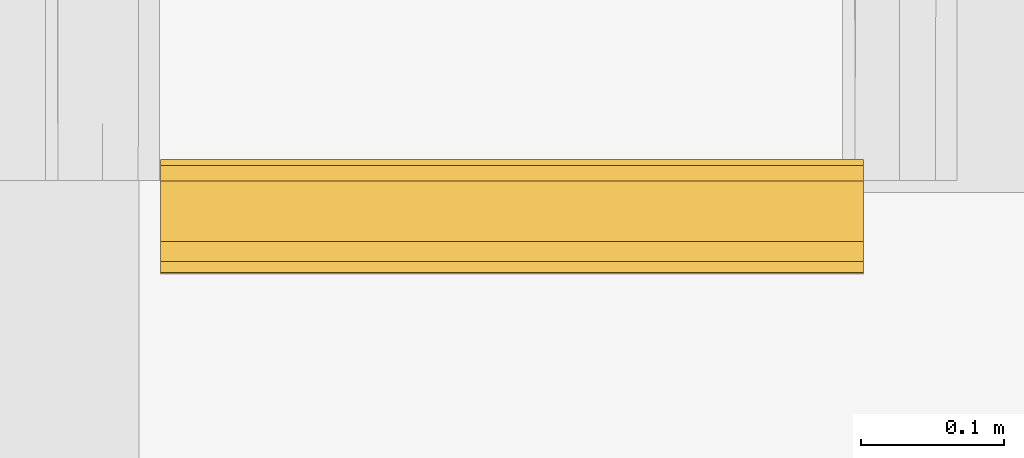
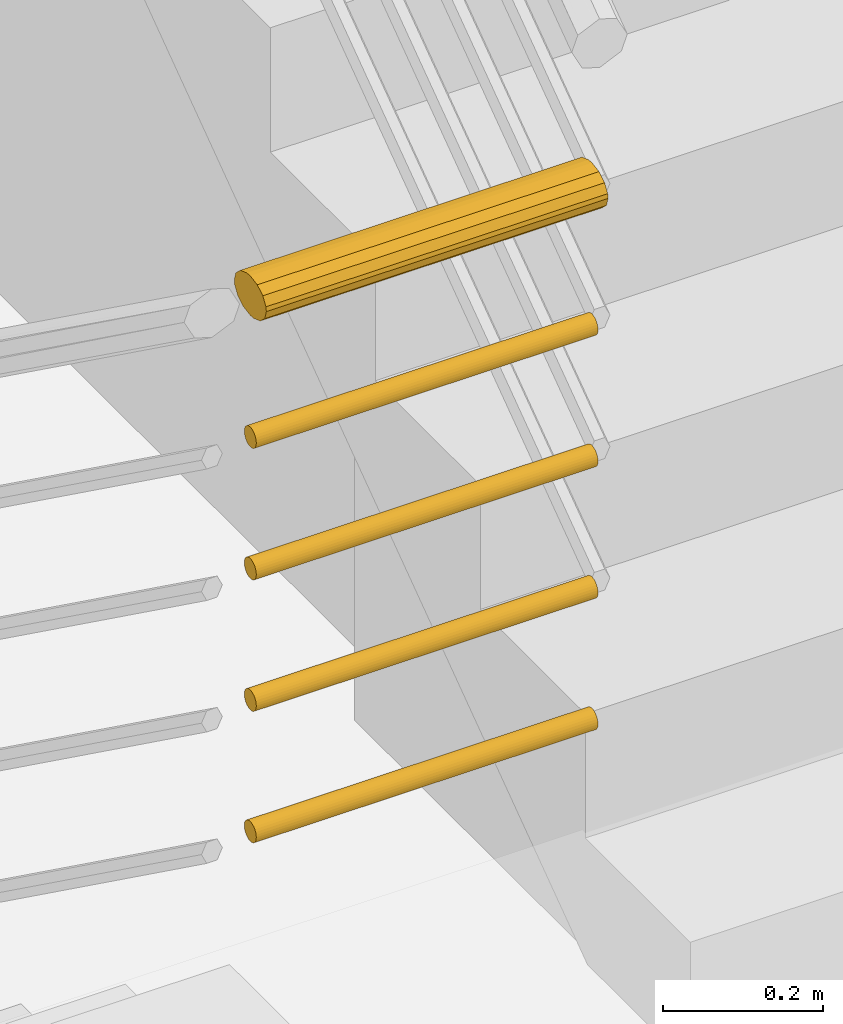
# One storey, part 252 of 302: 1 railing, 1 element without a shape of its own.
"""IFC2X3 building model written with IfcOpenShell, lengths in metres."""

from ifc_helpers import new_model, entity, si_unit, converted_unit, derived_unit, direction, frame, origin, origin_2d_with_axis, place, context, subcontext, project, spatial, polyline, circle, outline, extrude, material, material_list, element, aggregate, save


model = new_model("IFC2X3")

# Units and contexts
model_context = context("Model", 3, precision=1e-05, world=origin(), true_north=direction((6.12303176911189e-17, 1.0)))
body_context = subcontext(model_context, "Body", "Model", "MODEL_VIEW")
ifc_project = project(units=[si_unit("LENGTHUNIT", "METRE"), si_unit("AREAUNIT", "SQUARE_METRE"), si_unit("VOLUMEUNIT", "CUBIC_METRE"), converted_unit("PLANEANGLEUNIT", "DEGREE", entity("IfcRatioMeasure", 0.0174532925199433), si_unit("PLANEANGLEUNIT", "RADIAN"), dimensions=[0, 0, 0, 0, 0, 0, 0]), si_unit("MASSUNIT", "GRAM", prefix="KILO"), derived_unit("MASSDENSITYUNIT", [(si_unit("MASSUNIT", "GRAM", prefix="KILO"), 1), (si_unit("LENGTHUNIT", "METRE"), -3)]), derived_unit("MOMENTOFINERTIAUNIT", [(si_unit("LENGTHUNIT", "METRE"), 4)]), si_unit("TIMEUNIT", "SECOND"), si_unit("FREQUENCYUNIT", "HERTZ"), si_unit("THERMODYNAMICTEMPERATUREUNIT", "DEGREE_CELSIUS"), derived_unit("THERMALTRANSMITTANCEUNIT", [(si_unit("MASSUNIT", "GRAM", prefix="KILO"), 1), (si_unit("THERMODYNAMICTEMPERATUREUNIT", "KELVIN"), -1), (si_unit("TIMEUNIT", "SECOND"), -3)]), derived_unit("VOLUMETRICFLOWRATEUNIT", [(si_unit("LENGTHUNIT", "METRE"), 3), (si_unit("TIMEUNIT", "SECOND"), -1)]), si_unit("ELECTRICCURRENTUNIT", "AMPERE"), si_unit("ELECTRICVOLTAGEUNIT", "VOLT"), si_unit("POWERUNIT", "WATT"), si_unit("FORCEUNIT", "NEWTON", prefix="KILO"), si_unit("ILLUMINANCEUNIT", "LUX"), si_unit("LUMINOUSFLUXUNIT", "LUMEN"), si_unit("LUMINOUSINTENSITYUNIT", "CANDELA"), derived_unit("USERDEFINED", [(si_unit("MASSUNIT", "GRAM", prefix="KILO"), -1), (si_unit("LENGTHUNIT", "METRE"), -2), (si_unit("TIMEUNIT", "SECOND"), 3), (si_unit("LUMINOUSFLUXUNIT", "LUMEN"), 1)]), derived_unit("LINEARVELOCITYUNIT", [(si_unit("LENGTHUNIT", "METRE"), 1), (si_unit("TIMEUNIT", "SECOND"), -1)]), si_unit("PRESSUREUNIT", "PASCAL"), derived_unit("USERDEFINED", [(si_unit("LENGTHUNIT", "METRE"), -2), (si_unit("MASSUNIT", "GRAM", prefix="KILO"), 1), (si_unit("TIMEUNIT", "SECOND"), -2)]), derived_unit("LINEARFORCEUNIT", [(si_unit("MASSUNIT", "GRAM", prefix="KILO"), 1), (si_unit("LENGTHUNIT", "METRE"), 1), (si_unit("TIMEUNIT", "SECOND"), -2), (si_unit("LENGTHUNIT", "METRE"), -1)]), derived_unit("PLANARFORCEUNIT", [(si_unit("MASSUNIT", "GRAM", prefix="KILO"), 1), (si_unit("LENGTHUNIT", "METRE"), 1), (si_unit("TIMEUNIT", "SECOND"), -2), (si_unit("LENGTHUNIT", "METRE"), -2)])], contexts=[model_context])

# Site, building, storey
site_placement = place(None, origin())
site = spatial("IfcSite", under=ifc_project, at=site_placement, Name="Default", CompositionType="ELEMENT")
building_placement = place(site_placement, origin())
building = spatial("IfcBuilding", under=site, at=building_placement, CompositionType="ELEMENT")
storey_placement = place(building_placement, frame((0.0, 0.0, -1.3)))
storey = spatial("IfcBuildingStorey", under=building, at=storey_placement, Name="00_EG", CompositionType="ELEMENT", Elevation=-1.3)

# Stair, railing
stair_placement = place(storey_placement, origin())
stair = element("IfcStair", 1, at=stair_placement, inside=storey, Name="Fertigbetontreppe:Treppe", ObjectType="Fertigbetontreppe:Precast Stair", ShapeType="NOTDEFINED")
ifc_material = material(Name="<Unnamed>")
ifc_material_list = material_list([ifc_material, ifc_material, ifc_material, ifc_material, ifc_material])
railing_placement = place(stair_placement, origin())
railing = element("IfcRailing", 2, at=railing_placement, material=ifc_material_list, Name="Geländer:E2_6_Railing_metal_1000", ObjectType="Geländer:E2_6_Railing_metal_1000", PredefinedType="NOTDEFINED", context=body_context, shape_type="SweptSolid", body=[
    extrude(outline(polyline([(-0.0116456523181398, -0.0382672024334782), (0.00196026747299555, -0.0382672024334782), (0.015177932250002, -0.0306879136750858), (0.0253894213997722, -0.0170305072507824), (0.0287004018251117, -0.00873423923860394), (0.0309110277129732, 0.00873423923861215), (0.0269993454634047, 0.024472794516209), (0.0177401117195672, 0.035364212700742), (0.0116456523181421, 0.038267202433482), (-0.00196026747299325, 0.038267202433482), (-0.0151779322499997, 0.0306879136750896), (-0.0253894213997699, 0.0170305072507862), (-0.0287004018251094, 0.00873423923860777), (-0.0309110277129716, -0.00873423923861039), (-0.0269993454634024, -0.0244727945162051), (-0.0177401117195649, -0.0353642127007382), (-0.0116456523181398, -0.0382672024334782)])), frame((-264.90194316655, 16.7226889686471, 4.54782608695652), z_axis=(1.0, 0.0, 0.0), x_axis=(0.0, -0.291141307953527, 0.956680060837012)), (0.0, 0.0, 1.0), 0.491831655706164),
    extrude(circle(Radius=0.015, at=origin_2d_with_axis()), frame((-264.90194316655, 16.7226889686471, 4.33282608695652), z_axis=(1.0, 0.0, 0.0), x_axis=(0.0, 1.0, 0.0)), (0.0, 0.0, 1.0), 0.491831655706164),
    extrude(circle(Radius=0.015, at=origin_2d_with_axis()), frame((-264.90194316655, 16.7226889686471, 4.13282608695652), z_axis=(1.0, 0.0, 0.0), x_axis=(0.0, 1.0, 0.0)), (0.0, 0.0, 1.0), 0.491831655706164),
    extrude(circle(Radius=0.015, at=origin_2d_with_axis()), frame((-264.90194316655, 16.7226889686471, 3.93282608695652), z_axis=(1.0, 0.0, 0.0), x_axis=(0.0, 1.0, 0.0)), (0.0, 0.0, 1.0), 0.491831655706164),
    extrude(circle(Radius=0.015, at=origin_2d_with_axis()), frame((-264.90194316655, 16.7226889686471, 3.73282608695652), z_axis=(1.0, 0.0, 0.0), x_axis=(0.0, 1.0, 0.0)), (0.0, 0.0, 1.0), 0.491831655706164),
])
aggregate(stair, [railing])

save(model, "model.ifc")
